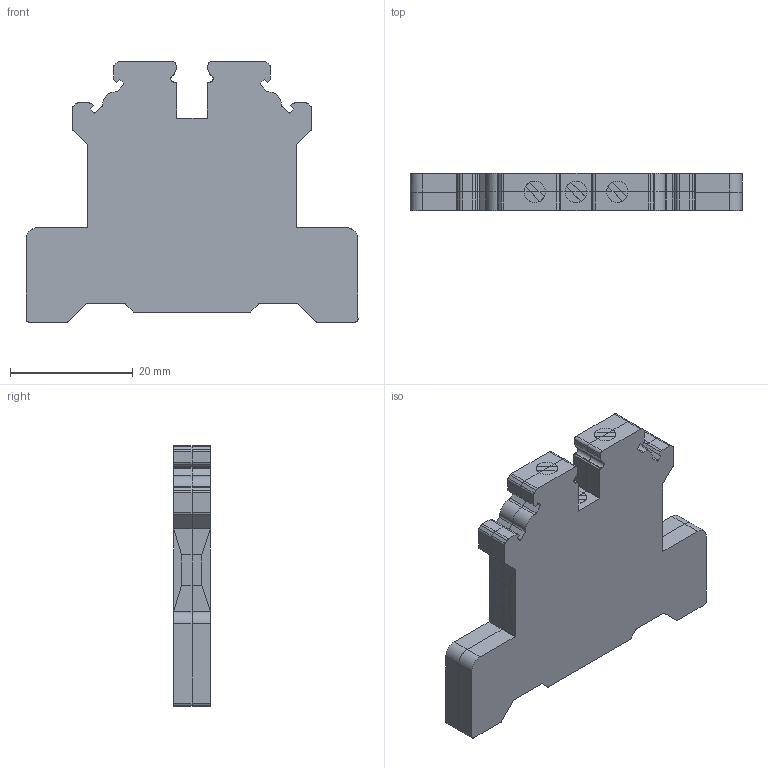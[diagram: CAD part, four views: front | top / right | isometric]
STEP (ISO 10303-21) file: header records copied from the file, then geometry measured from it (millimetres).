
FILE_DESCRIPTION( ( 'Unknown' ), '1' );
FILE_NAME( 'Z:/Product Configurator/3d/CGT4N.stp', 'Unknown', ( 'Unknown' ), ( 'Unknown' ), 'PSStep 17.0.49', 'Unknown', ' ' );
FILE_SCHEMA( ( 'AUTOMOTIVE_DESIGN { 1 0 10303 214 1 1 1 1 }' ) );
Length unit declared in the file: millimetre
Products named in the file (2): 1; 2
Bounding box: 54.2 x 6 x 42.5 mm (x, y, z)
Volume: 9542.1 mm3; surface area: 7731.1 mm2
Topology: 2 solids, 2 shells, 272 faces, 796 edges, 528 vertices
Faces by surface type: plane 178, cylinder 94
Entity records: 11610 total; most frequent: CARTESIAN_POINT 2294, ORIENTED_EDGE 1592, DIRECTION 1356, EDGE_CURVE 796, LINE 584, VECTOR 584, VERTEX_POINT 528, AXIS2_PLACEMENT_3D 386
